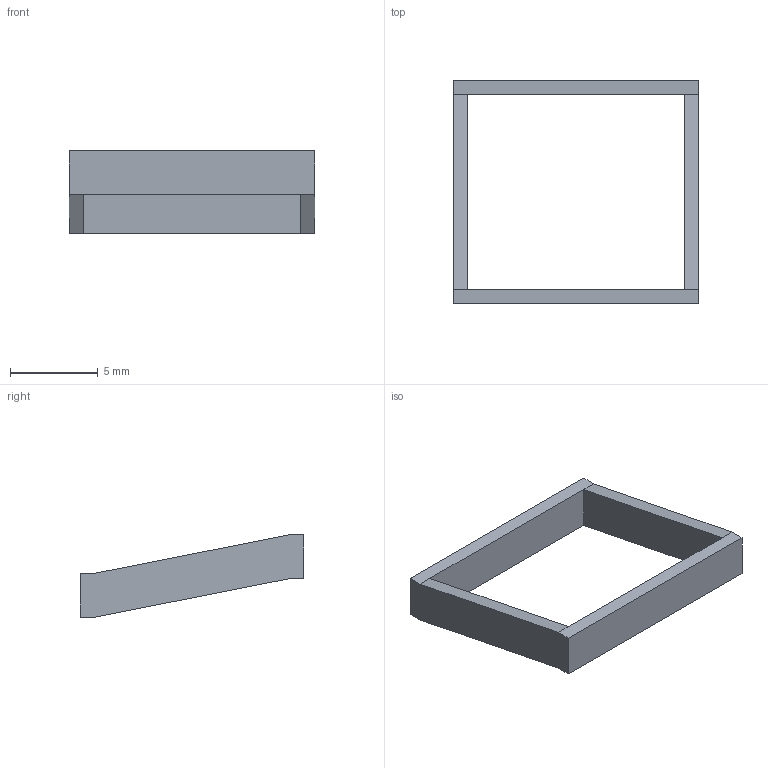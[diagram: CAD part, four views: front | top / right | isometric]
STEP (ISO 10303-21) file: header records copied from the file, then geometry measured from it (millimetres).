
FILE_DESCRIPTION(/* description */ (''),/* implementation_level */ '2;1');
FILE_NAME(/* name */ 'REF_upper_retaining_loop.step',/* time_stamp */ '2026-11-14T21:40:03-08:00',/* author */ (''),/* organization */ (''),/* preprocessor_version */ 'ST-DEVELOPER v20.2',/* originating_system */ 'Autodesk Translation Framework v15.17.0.0',/* authorisation */ '');
FILE_SCHEMA (('AUTOMOTIVE_DESIGN { 1 0 10303 214 3 1 1 }'));
Length unit declared in the file: millimetre
Products named in the file (1): 2026-11-14-21-40-03-021
Bounding box: 14 x 12.75 x 4.7 mm (x, y, z)
Volume: 100.6 mm3; surface area: 332.7 mm2
Topology: 1 solids, 1 shells, 16 faces, 40 edges, 24 vertices
Faces by surface type: plane 16
Entity records: 497 total; most frequent: CARTESIAN_POINT 81, ORIENTED_EDGE 80, DIRECTION 74, LINE 40, VECTOR 40, EDGE_CURVE 40, VERTEX_POINT 24, AXIS2_PLACEMENT_3D 17
